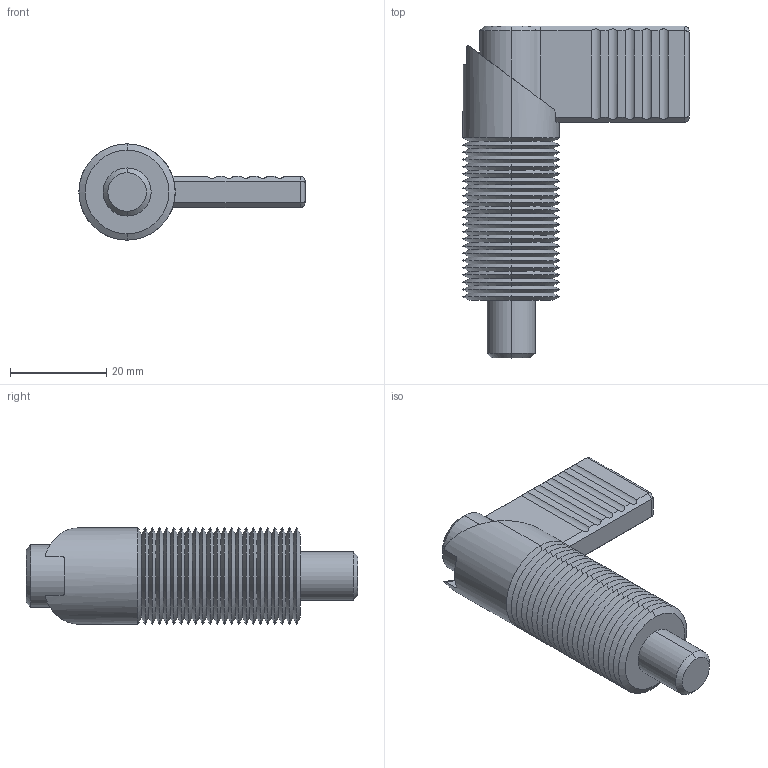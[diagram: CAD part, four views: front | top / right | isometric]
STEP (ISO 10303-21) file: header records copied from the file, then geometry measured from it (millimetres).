
FILE_DESCRIPTION (( 'STEP AP203' ), '1' );
FILE_NAME ('32501.W0330.step', '2016-02-10T17:21:23', ( 'User' ), ( '' ), 'SwSTEP 2.0', 'SolidWorks 2009', '' );
FILE_SCHEMA (( 'CONFIG_CONTROL_DESIGN' ));
Length unit declared in the file: millimetre
Products named in the file (3): Part1_32501.W0330; 32501.W0330; Part2_32501.W0330
Assembly tree (2 placements, depth 2):
  32501.W0330
    Part2_32501.W0330
    Part1_32501.W0330
Bounding box: 47 x 69 x 20 mm (x, y, z)
Volume: 15695.6 mm3; surface area: 11228.2 mm2
Topology: 2 solids, 2 shells, 171 faces, 376 edges, 212 vertices
Faces by surface type: cone 104, cylinder 40, plane 27
Entity records: 4965 total; most frequent: CARTESIAN_POINT 948, DIRECTION 826, ORIENTED_EDGE 752, EDGE_CURVE 376, AXIS2_PLACEMENT_3D 316, VERTEX_POINT 212, LINE 194, VECTOR 194
